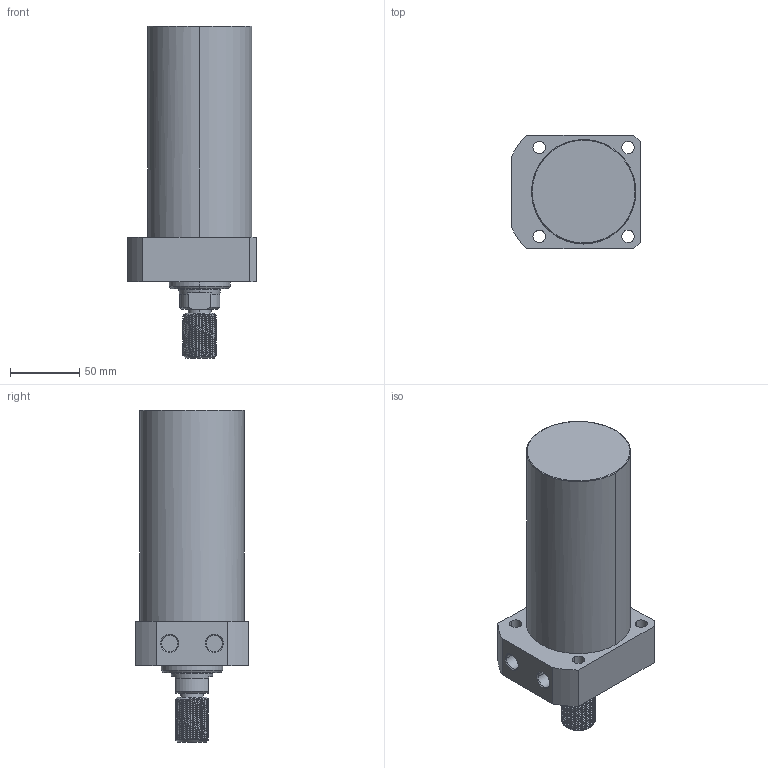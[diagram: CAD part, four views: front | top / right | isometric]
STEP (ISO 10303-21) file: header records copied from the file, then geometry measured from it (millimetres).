
FILE_DESCRIPTION((' '),'2;1');
FILE_NAME( 'TLLR-075CT-115.STEP.stp', '2025-10-24T16:35:12', (' '), ('--- Datakit www.datakit.com---'), ' Datakit CrossCadWare V2024.1 Dec 21 2023', 'Mastercam 2025', ' ');
FILE_SCHEMA(('AUTOMOTIVE_DESIGN { 1 0 10303 214 1 1 1 1 }'));
Length unit declared in the file: millimetre
Products named in the file (1): TLLR-075CT-115
Bounding box: 93 x 82 x 239 mm (x, y, z)
Volume: 928553.8 mm3; surface area: 71836.2 mm2
Topology: 1 solids, 1 shells, 109 faces, 396 edges, 298 vertices
Faces by surface type: cylinder 69, plane 21, cone 15, torus 2, bspline 2
Entity records: 11545 total; most frequent: CARTESIAN_POINT 8184, ORIENTED_EDGE 792, DIRECTION 545, EDGE_CURVE 396, VERTEX_POINT 298, AXIS2_PLACEMENT_3D 220, B_SPLINE_CURVE_WITH_KNOTS 178, EDGE_LOOP 126
